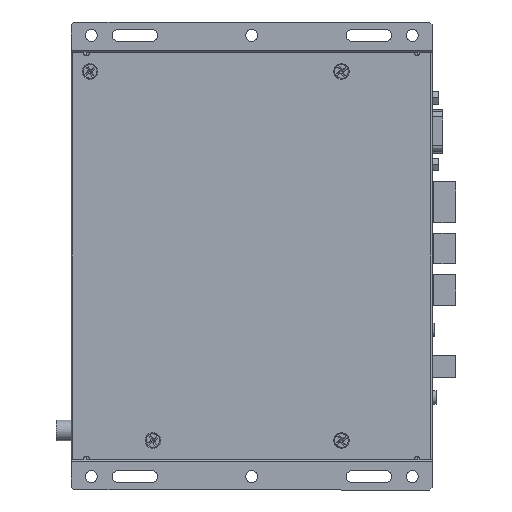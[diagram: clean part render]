
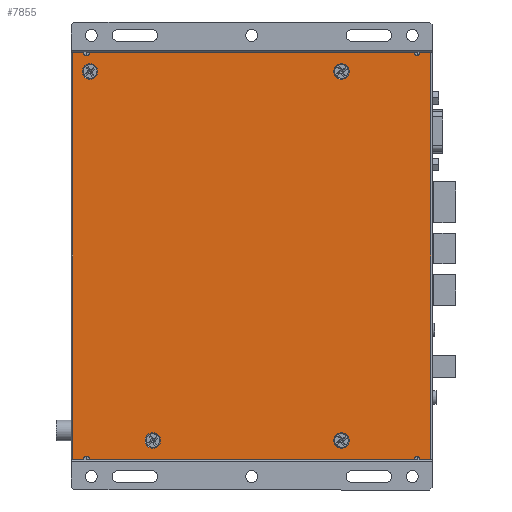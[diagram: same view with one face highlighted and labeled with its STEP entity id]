
A CAD part, front view. The second image highlights one B-rep face of the part: STEP entity #7855.
In plain terms, the highlighted planar face has unit normal (0, -1, 0).
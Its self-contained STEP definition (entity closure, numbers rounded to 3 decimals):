
#306 = EDGE_CURVE ( 'NONE', #45015, #68087, #11882, .T. ) ;
#466 = AXIS2_PLACEMENT_3D ( 'NONE', #30065, #66365, #54945 ) ;
#846 = CARTESIAN_POINT ( 'NONE',  ( -67., -19.88, -1.5 ) ) ;
#1018 = CARTESIAN_POINT ( 'NONE',  ( -67.5, -19.88, -1.5 ) ) ;
#1435 = DIRECTION ( 'NONE',  ( 0., 0., 1. ) ) ;
#2206 = ORIENTED_EDGE ( 'NONE', *, *, #19915, .T. ) ;
#2280 = CARTESIAN_POINT ( 'NONE',  ( -67.5, -19.88, -153.5 ) ) ;
#2630 = CIRCLE ( 'NONE', #10431, 1.2 ) ;
#4356 = EDGE_CURVE ( 'NONE', #27379, #19132, #78752, .T. ) ;
#4451 = ORIENTED_EDGE ( 'NONE', *, *, #57822, .T. ) ;
#5217 = DIRECTION ( 'NONE',  ( 0., 1., 0. ) ) ;
#5321 = CIRCLE ( 'NONE', #60009, 2.9 ) ;
#6456 = DIRECTION ( 'NONE',  ( 0., 0., 1. ) ) ;
#7083 = VERTEX_POINT ( 'NONE', #56783 ) ;
#7855 = ADVANCED_FACE ( 'NONE', ( #31626, #56489, #75240, #19377, #48799 ), #38551, .F. ) ;
#7967 = AXIS2_PLACEMENT_3D ( 'NONE', #58761, #9445, #52667 ) ;
#8362 = CARTESIAN_POINT ( 'NONE',  ( 62.8, -19.88, -153.5 ) ) ;
#9239 = EDGE_CURVE ( 'NONE', #27379, #15635, #24146, .T. ) ;
#9348 = VERTEX_POINT ( 'NONE', #46058 ) ;
#9445 = DIRECTION ( 'NONE',  ( 0., 1., 0. ) ) ;
#9627 = ORIENTED_EDGE ( 'NONE', *, *, #16531, .T. ) ;
#10238 = EDGE_LOOP ( 'NONE', ( #55253, #4451, #49870, #61298, #72558, #50435, #27144, #2206, #63934, #26503, #32577, #27588 ) ) ;
#10431 = AXIS2_PLACEMENT_3D ( 'NONE', #66372, #5217, #10531 ) ;
#10531 = DIRECTION ( 'NONE',  ( 0., 0., 1. ) ) ;
#10649 = DIRECTION ( 'NONE',  ( 0., 1., 0. ) ) ;
#10677 = DIRECTION ( 'NONE',  ( 0., 1., 0. ) ) ;
#10933 = CARTESIAN_POINT ( 'NONE',  ( -60.6, -19.88, -1.5 ) ) ;
#11366 = EDGE_LOOP ( 'NONE', ( #27057 ) ) ;
#11882 = CIRCLE ( 'NONE', #7967, 1. ) ;
#13086 = VECTOR ( 'NONE', #45546, 1000. ) ;
#14504 = LINE ( 'NONE', #2280, #60409 ) ;
#14541 = AXIS2_PLACEMENT_3D ( 'NONE', #71499, #53163, #66587 ) ;
#15635 = VERTEX_POINT ( 'NONE', #55191 ) ;
#15954 = DIRECTION ( 'NONE',  ( 0., 0., 1. ) ) ;
#16531 = EDGE_CURVE ( 'NONE', #9348, #9348, #40558, .T. ) ;
#18744 = VECTOR ( 'NONE', #19038, 1000. ) ;
#19038 = DIRECTION ( 'NONE',  ( 1., 0., 0. ) ) ;
#19132 = VERTEX_POINT ( 'NONE', #8362 ) ;
#19377 = FACE_BOUND ( 'NONE', #52117, .T. ) ;
#19915 = EDGE_CURVE ( 'NONE', #78818, #21773, #55886, .T. ) ;
#20245 = LINE ( 'NONE', #21041, #69462 ) ;
#20666 = CARTESIAN_POINT ( 'NONE',  ( 67., -19.88, -1.5 ) ) ;
#21015 = DIRECTION ( 'NONE',  ( -1., 0., 0. ) ) ;
#21041 = CARTESIAN_POINT ( 'NONE',  ( -67.5, -19.88, -153.5 ) ) ;
#21773 = VERTEX_POINT ( 'NONE', #51368 ) ;
#22488 = EDGE_CURVE ( 'NONE', #74051, #68087, #32010, .T. ) ;
#24146 = LINE ( 'NONE', #42485, #37803 ) ;
#25887 = DIRECTION ( 'NONE',  ( 1., 0., 0. ) ) ;
#26092 = EDGE_CURVE ( 'NONE', #39928, #39928, #5321, .T. ) ;
#26503 = ORIENTED_EDGE ( 'NONE', *, *, #76324, .T. ) ;
#27057 = ORIENTED_EDGE ( 'NONE', *, *, #73974, .T. ) ;
#27114 = DIRECTION ( 'NONE',  ( 0., 1., 0. ) ) ;
#27144 = ORIENTED_EDGE ( 'NONE', *, *, #61507, .F. ) ;
#27161 = DIRECTION ( 'NONE',  ( -1., 0., 0. ) ) ;
#27379 = VERTEX_POINT ( 'NONE', #37949 ) ;
#27588 = ORIENTED_EDGE ( 'NONE', *, *, #4356, .T. ) ;
#28385 = VERTEX_POINT ( 'NONE', #31113 ) ;
#28501 = CARTESIAN_POINT ( 'NONE',  ( -37., -19.88, -143.6 ) ) ;
#28917 = CARTESIAN_POINT ( 'NONE',  ( 60.8, -19.88, -1.5 ) ) ;
#29926 = EDGE_CURVE ( 'NONE', #38714, #38714, #45992, .T. ) ;
#30065 = CARTESIAN_POINT ( 'NONE',  ( -60.5, -19.88, -8.5 ) ) ;
#30125 = LINE ( 'NONE', #48093, #61499 ) ;
#30530 = CARTESIAN_POINT ( 'NONE',  ( 61.8, -19.88, -153.5 ) ) ;
#30909 = EDGE_LOOP ( 'NONE', ( #53370 ) ) ;
#31113 = CARTESIAN_POINT ( 'NONE',  ( 67., -19.88, -1.5 ) ) ;
#31626 = FACE_BOUND ( 'NONE', #30909, .T. ) ;
#32010 = LINE ( 'NONE', #1018, #66953 ) ;
#32577 = ORIENTED_EDGE ( 'NONE', *, *, #9239, .F. ) ;
#34482 = EDGE_CURVE ( 'NONE', #7083, #21773, #20245, .T. ) ;
#35541 = DIRECTION ( 'NONE',  ( 0., 0., 1. ) ) ;
#35857 = DIRECTION ( 'NONE',  ( 1., 0., 0. ) ) ;
#37803 = VECTOR ( 'NONE', #73057, 1000. ) ;
#37949 = CARTESIAN_POINT ( 'NONE',  ( 60.8, -19.88, -153.5 ) ) ;
#38313 = AXIS2_PLACEMENT_3D ( 'NONE', #59971, #10649, #15954 ) ;
#38551 = PLANE ( 'NONE',  #80581 ) ;
#38714 = VERTEX_POINT ( 'NONE', #28501 ) ;
#39928 = VERTEX_POINT ( 'NONE', #64785 ) ;
#40055 = EDGE_CURVE ( 'NONE', #74051, #49097, #2630, .T. ) ;
#40558 = CIRCLE ( 'NONE', #14541, 2.9 ) ;
#41665 = DIRECTION ( 'NONE',  ( 0., 1., 0. ) ) ;
#42485 = CARTESIAN_POINT ( 'NONE',  ( -67.5, -19.88, -153.5 ) ) ;
#45015 = VERTEX_POINT ( 'NONE', #72173 ) ;
#45546 = DIRECTION ( 'NONE',  ( 0., 0., 1. ) ) ;
#45561 = ORIENTED_EDGE ( 'NONE', *, *, #26092, .T. ) ;
#45764 = EDGE_CURVE ( 'NONE', #65887, #19132, #14504, .T. ) ;
#45992 = CIRCLE ( 'NONE', #51161, 2.9 ) ;
#46058 = CARTESIAN_POINT ( 'NONE',  ( 33.5, -19.88, -5.6 ) ) ;
#47408 = CARTESIAN_POINT ( 'NONE',  ( -37., -19.88, -146.5 ) ) ;
#48093 = CARTESIAN_POINT ( 'NONE',  ( -67.5, -19.88, -1.5 ) ) ;
#48799 = FACE_OUTER_BOUND ( 'NONE', #10238, .T. ) ;
#49097 = VERTEX_POINT ( 'NONE', #59726 ) ;
#49870 = ORIENTED_EDGE ( 'NONE', *, *, #74107, .F. ) ;
#50435 = ORIENTED_EDGE ( 'NONE', *, *, #40055, .T. ) ;
#51007 = VECTOR ( 'NONE', #63202, 1000. ) ;
#51161 = AXIS2_PLACEMENT_3D ( 'NONE', #47408, #41665, #77160 ) ;
#51368 = CARTESIAN_POINT ( 'NONE',  ( -67., -19.88, -153.5 ) ) ;
#52117 = EDGE_LOOP ( 'NONE', ( #9627 ) ) ;
#52667 = DIRECTION ( 'NONE',  ( 0., 0., 1. ) ) ;
#53163 = DIRECTION ( 'NONE',  ( 0., 1., 0. ) ) ;
#53370 = ORIENTED_EDGE ( 'NONE', *, *, #29926, .T. ) ;
#54945 = DIRECTION ( 'NONE',  ( 0., 0., 1. ) ) ;
#55191 = CARTESIAN_POINT ( 'NONE',  ( -60.6, -19.88, -153.5 ) ) ;
#55253 = ORIENTED_EDGE ( 'NONE', *, *, #45764, .F. ) ;
#55402 = DIRECTION ( 'NONE',  ( 0., 1., 0. ) ) ;
#55886 = LINE ( 'NONE', #846, #51007 ) ;
#56489 = FACE_BOUND ( 'NONE', #66331, .T. ) ;
#56783 = CARTESIAN_POINT ( 'NONE',  ( -63., -19.88, -153.5 ) ) ;
#57822 = EDGE_CURVE ( 'NONE', #65887, #28385, #76524, .T. ) ;
#58761 = CARTESIAN_POINT ( 'NONE',  ( 61.8, -19.88, -1.5 ) ) ;
#59726 = CARTESIAN_POINT ( 'NONE',  ( -63., -19.88, -1.5 ) ) ;
#59971 = CARTESIAN_POINT ( 'NONE',  ( -61.8, -19.88, -153.5 ) ) ;
#60009 = AXIS2_PLACEMENT_3D ( 'NONE', #78763, #10677, #35541 ) ;
#60409 = VECTOR ( 'NONE', #21015, 1000. ) ;
#60411 = CIRCLE ( 'NONE', #466, 2.9 ) ;
#61298 = ORIENTED_EDGE ( 'NONE', *, *, #306, .T. ) ;
#61499 = VECTOR ( 'NONE', #35857, 1000. ) ;
#61507 = EDGE_CURVE ( 'NONE', #78818, #49097, #30125, .T. ) ;
#61805 = AXIS2_PLACEMENT_3D ( 'NONE', #30530, #55402, #6456 ) ;
#61852 = CARTESIAN_POINT ( 'NONE',  ( -67.5, -19.88, -1.5 ) ) ;
#63025 = CIRCLE ( 'NONE', #38313, 1.2 ) ;
#63202 = DIRECTION ( 'NONE',  ( 0., 0., -1. ) ) ;
#63934 = ORIENTED_EDGE ( 'NONE', *, *, #34482, .F. ) ;
#64285 = CARTESIAN_POINT ( 'NONE',  ( -60.5, -19.88, -5.6 ) ) ;
#64785 = CARTESIAN_POINT ( 'NONE',  ( 33.5, -19.88, -143.6 ) ) ;
#65887 = VERTEX_POINT ( 'NONE', #80528 ) ;
#66159 = CARTESIAN_POINT ( 'NONE',  ( -67., -19.88, -1.5 ) ) ;
#66331 = EDGE_LOOP ( 'NONE', ( #45561 ) ) ;
#66365 = DIRECTION ( 'NONE',  ( 0., 1., 0. ) ) ;
#66372 = CARTESIAN_POINT ( 'NONE',  ( -61.8, -19.88, -1.5 ) ) ;
#66587 = DIRECTION ( 'NONE',  ( 0., 0., 1. ) ) ;
#66953 = VECTOR ( 'NONE', #25887, 1000. ) ;
#68087 = VERTEX_POINT ( 'NONE', #28917 ) ;
#69462 = VECTOR ( 'NONE', #27161, 1000. ) ;
#69564 = LINE ( 'NONE', #61852, #18744 ) ;
#71499 = CARTESIAN_POINT ( 'NONE',  ( 33.5, -19.88, -8.5 ) ) ;
#72173 = CARTESIAN_POINT ( 'NONE',  ( 62.8, -19.88, -1.5 ) ) ;
#72558 = ORIENTED_EDGE ( 'NONE', *, *, #22488, .F. ) ;
#73057 = DIRECTION ( 'NONE',  ( -1., 0., 0. ) ) ;
#73974 = EDGE_CURVE ( 'NONE', #76129, #76129, #60411, .T. ) ;
#74051 = VERTEX_POINT ( 'NONE', #10933 ) ;
#74107 = EDGE_CURVE ( 'NONE', #45015, #28385, #69564, .T. ) ;
#75240 = FACE_BOUND ( 'NONE', #11366, .T. ) ;
#76129 = VERTEX_POINT ( 'NONE', #64285 ) ;
#76324 = EDGE_CURVE ( 'NONE', #7083, #15635, #63025, .T. ) ;
#76453 = CARTESIAN_POINT ( 'NONE',  ( -67.5, -19.88, -1.5 ) ) ;
#76524 = LINE ( 'NONE', #20666, #13086 ) ;
#77160 = DIRECTION ( 'NONE',  ( 0., 0., 1. ) ) ;
#78752 = CIRCLE ( 'NONE', #61805, 1. ) ;
#78763 = CARTESIAN_POINT ( 'NONE',  ( 33.5, -19.88, -146.5 ) ) ;
#78818 = VERTEX_POINT ( 'NONE', #66159 ) ;
#80528 = CARTESIAN_POINT ( 'NONE',  ( 67., -19.88, -153.5 ) ) ;
#80581 = AXIS2_PLACEMENT_3D ( 'NONE', #76453, #27114, #1435 ) ;
